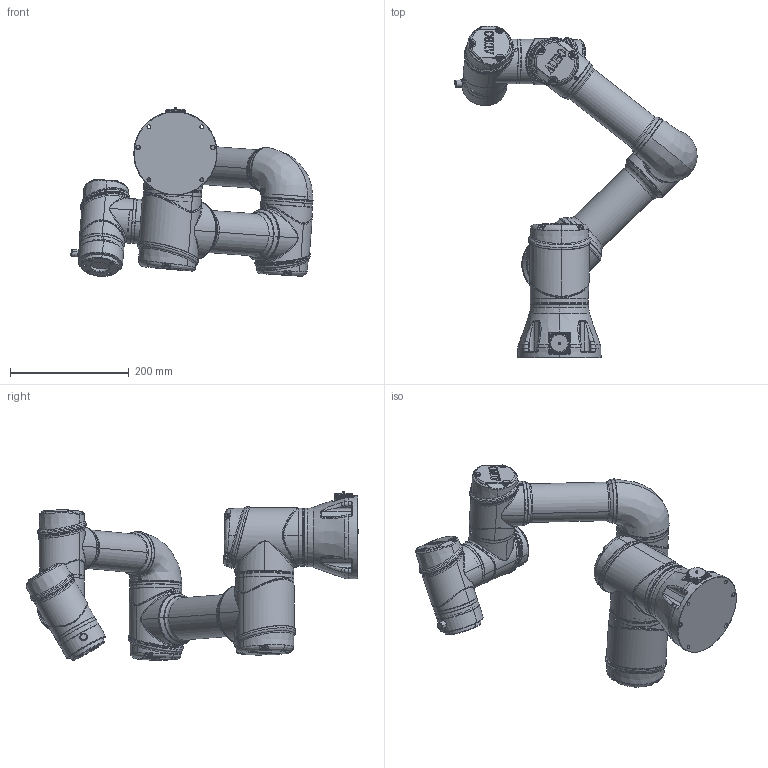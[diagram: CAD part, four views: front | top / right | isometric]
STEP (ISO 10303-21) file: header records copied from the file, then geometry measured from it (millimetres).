
FILE_DESCRIPTION (( 'STEP AP214' ), '1' );
FILE_NAME ('i3-4-V2.0.STEP', '2018-05-30T05:50:03', ( 'User' ), ( 'china' ), 'SwSTEP 2.0', 'SolidWorks 2014', '' );
FILE_SCHEMA (( 'AUTOMOTIVE_DESIGN' ));
Length unit declared in the file: millimetre
Products named in the file (7): Group7^i3潠趙耀倰_1; Group6^i3潠趙耀倰_1; Group4^i3潠趙耀倰_1; Group3^i3潠趙耀倰_1; Group2^i3潠趙耀倰_1; Group1^i3潠趙耀倰_1; i3-4-V2.0
Assembly tree (7 placements, depth 2):
  i3-4-V2.0
    Group1^i3潠趙耀倰_1
    Group2^i3潠趙耀倰_1
    Group3^i3潠趙耀倰_1
    Group4^i3潠趙耀倰_1
    Group6^i3潠趙耀倰_1  x2
    Group7^i3潠趙耀倰_1
Bounding box: 407.43 x 558.47 x 284.11 mm (x, y, z)
Volume: 7846707.1 mm3; surface area: 595725.8 mm2
Topology: 19 solids, 19 shells, 3456 faces, 9286 edges, 5928 vertices
Faces by surface type: bspline 1210, plane 1145, cylinder 861, cone 238, sphere 2
Entity records: 283334 total; most frequent: CARTESIAN_POINT 195104, ORIENTED_EDGE 14898, DIRECTION 9064, EDGE_CURVE 7449, VERTEX_POINT 4797, AXIS2_PLACEMENT_3D 3260, EDGE_LOOP 2978, B_SPLINE_CURVE_WITH_KNOTS 2875
